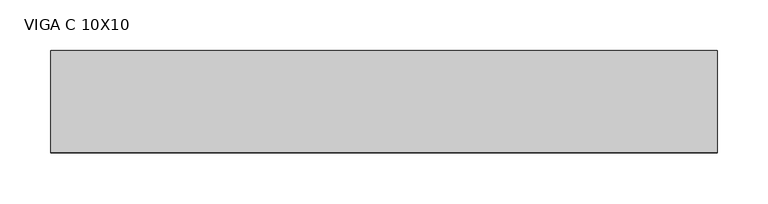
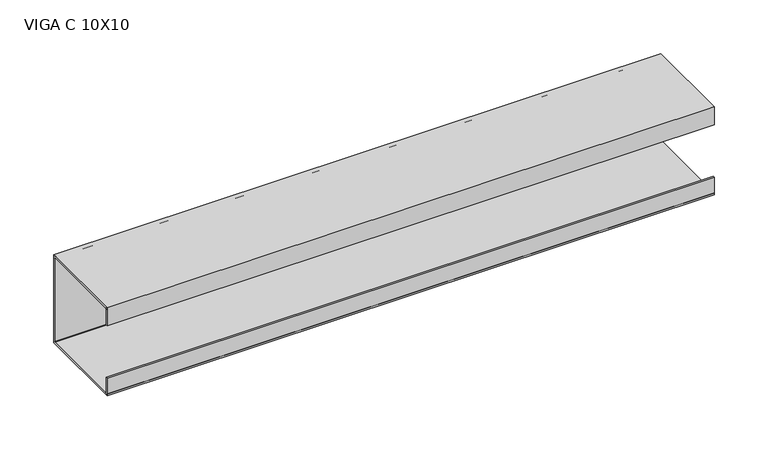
"""IFC4 building model written with IfcOpenShell, lengths in millimetres: beam geometry, VIGA PERFIL C AÇO : VIGA C 10X10."""

from ifc_helpers import new_model, si_unit, point, frame, frame_2d, origin, place, context, project, spatial, polyline, circle_curve, trimmed, segment, composite_curve, outline, extrude, source, transform, mapped, element, save


def viga_c_10x10_62381ca0(model_context):
    return source(origin(), model_context, "Body", "SweptSolid", [
        extrude(outline(polyline([(9.2, -50.0), (-90.8, -50.0), (-90.8, -30.0), (-88.9, -30.0), (-88.9, -48.1), (7.3, -48.1), (7.3, 48.1), (-88.9, 48.1), (-88.9, 30.0), (-90.8, 30.0), (-90.8, 50.0), (9.2, 50.0), (9.2, -50.0)])), frame((-334.0, 0.0, 0.0), z_axis=(1.0, 0.0, 0.0), x_axis=(0.0, 1.0, 0.0)), (0.0, 0.0, 1.0), 653.0),
        extrude(outline(composite_curve([segment(trimmed(circle_curve(frame_2d((5.4, -46.2)), 3.8), [point((9.2, -46.2))], [point((5.4, -50.0))], False, "CARTESIAN"), True, "CONTINUOUS"), segment(polyline([(5.4, -50.0), (-87.0, -50.0)]), True, "CONTINUOUS"), segment(trimmed(circle_curve(frame_2d((-87.0, -46.2)), 3.8), [point((-87.0, -50.0))], [point((-90.8, -46.2))], False, "CARTESIAN"), True, "CONTINUOUS"), segment(polyline([(-90.8, -46.2), (-90.8, -30.0), (-88.9, -30.0), (-88.9, -46.2)]), True, "CONTINUOUS"), segment(trimmed(circle_curve(frame_2d((-87.0, -46.2)), 1.9), [point((-88.9, -46.2))], [point((-87.0, -48.1))], True, "CARTESIAN"), True, "CONTINUOUS"), segment(polyline([(-87.0, -48.1), (5.4, -48.1)]), True, "CONTINUOUS"), segment(trimmed(circle_curve(frame_2d((5.4, -46.2)), 1.9), [point((5.4, -48.1))], [point((7.3, -46.2))], True, "CARTESIAN"), True, "CONTINUOUS"), segment(polyline([(7.3, -46.2), (7.3, 46.2)]), True, "CONTINUOUS"), segment(trimmed(circle_curve(frame_2d((5.4, 46.2)), 1.9), [point((7.3, 46.2))], [point((5.4, 48.1))], True, "CARTESIAN"), True, "CONTINUOUS"), segment(polyline([(5.4, 48.1), (-87.0, 48.1)]), True, "CONTINUOUS"), segment(trimmed(circle_curve(frame_2d((-87.0, 46.2)), 1.9), [point((-87.0, 48.1))], [point((-88.9, 46.2))], True, "CARTESIAN"), True, "CONTINUOUS"), segment(polyline([(-88.9, 46.2), (-88.9, 30.0), (-90.8, 30.0), (-90.8, 46.2)]), True, "CONTINUOUS"), segment(trimmed(circle_curve(frame_2d((-87.0, 46.2)), 3.8), [point((-90.8, 46.2))], [point((-87.0, 50.0))], False, "CARTESIAN"), True, "CONTINUOUS"), segment(polyline([(-87.0, 50.0), (5.4, 50.0)]), True, "CONTINUOUS"), segment(trimmed(circle_curve(frame_2d((5.4, 46.2)), 3.8), [point((5.4, 50.0))], [point((9.2, 46.2))], False, "CARTESIAN"), True, "CONTINUOUS"), segment(polyline([(9.2, 46.2), (9.2, -46.2)]), True, "CONTINUOUS")], self_intersect=False)), frame((-334.0, 0.0, 0.0), z_axis=(1.0, 0.0, 0.0), x_axis=(0.0, 1.0, 0.0)), (0.0, 0.0, 1.0), 653.0),
    ])


if __name__ == "__main__":
    model = new_model("IFC4")
    model_context = context("Model", 3, world=origin())
    ifc_project = project(units=[si_unit("LENGTHUNIT", "METRE", prefix="MILLI")], contexts=[model_context])
    site = spatial("IfcSite", under=ifc_project)
    building = spatial("IfcBuilding", under=site)
    placement = place(None, origin())
    viga_c_10x10_shape = viga_c_10x10_62381ca0(model_context)
    element("IfcBeam", 1, ObjectType="VIGA PERFIL C AÇO : VIGA C 10X10", at=placement, inside=building, context=model_context, shape_type="MappedRepresentation", body=[
        mapped(viga_c_10x10_shape, transform((0.0, 0.0, 0.0), x_axis=(1.0, 0.0, 0.0), y_axis=(0.0, 1.0, 0.0), z_axis=(0.0, 0.0, 1.0))),
    ])
    save(model, "model.ifc")
